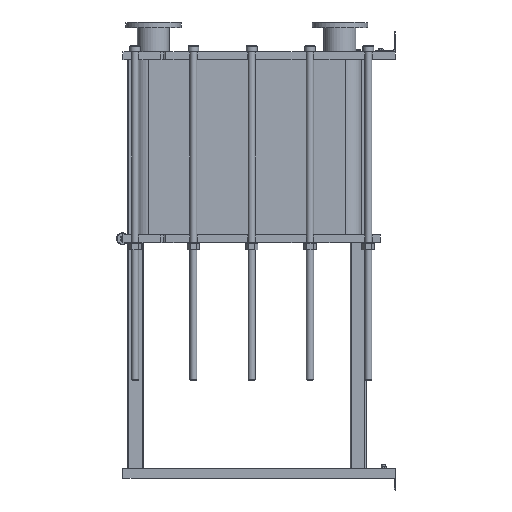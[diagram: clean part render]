
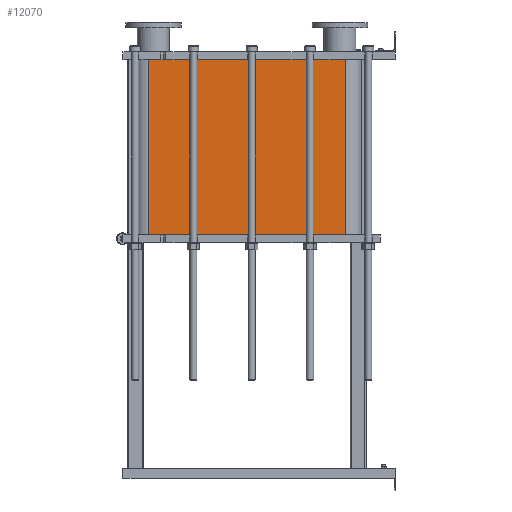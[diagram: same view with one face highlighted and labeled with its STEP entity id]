
A CAD part, left-side view. The second image highlights one B-rep face of the part: STEP entity #12070.
In plain terms, the highlighted planar face has unit normal (-1, 0, 0).
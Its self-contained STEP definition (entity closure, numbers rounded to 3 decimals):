
#1064=LINE('',#21140,#2164);
#1065=LINE('',#21144,#2165);
#1066=LINE('',#21146,#2166);
#1067=LINE('',#21147,#2167);
#2164=VECTOR('',#15790,10.);
#2165=VECTOR('',#15795,10.);
#2166=VECTOR('',#15796,10.);
#2167=VECTOR('',#15797,10.);
#3304=FACE_OUTER_BOUND('',#4091,.T.);
#4091=EDGE_LOOP('',(#9793,#9794,#9795,#9796));
#5677=VERTEX_POINT('',#21137);
#5678=VERTEX_POINT('',#21139);
#5679=VERTEX_POINT('',#21143);
#5680=VERTEX_POINT('',#21145);
#7118=EDGE_CURVE('',#5678,#5677,#1064,.T.);
#7120=EDGE_CURVE('',#5677,#5679,#1065,.T.);
#7121=EDGE_CURVE('',#5680,#5679,#1066,.T.);
#7122=EDGE_CURVE('',#5680,#5678,#1067,.T.);
#9793=ORIENTED_EDGE('',*,*,#7120,.T.);
#9794=ORIENTED_EDGE('',*,*,#7121,.F.);
#9795=ORIENTED_EDGE('',*,*,#7122,.T.);
#9796=ORIENTED_EDGE('',*,*,#7118,.T.);
#11441=PLANE('',#13191);
#12070=ADVANCED_FACE('',(#3304),#11441,.T.);
#13191=AXIS2_PLACEMENT_3D('',#21142,#15793,#15794);
#15790=DIRECTION('',(0.,0.,-1.));
#15793=DIRECTION('center_axis',(-1.,0.,0.));
#15794=DIRECTION('ref_axis',(0.,1.,0.));
#15795=DIRECTION('',(0.,-1.,0.));
#15796=DIRECTION('',(0.,0.,-1.));
#15797=DIRECTION('',(0.,1.,0.));
#21137=CARTESIAN_POINT('',(-248.152,1243.818,-883.2));
#21139=CARTESIAN_POINT('',(-248.152,1243.818,0.));
#21140=CARTESIAN_POINT('',(-248.152,1243.818,0.));
#21142=CARTESIAN_POINT('Origin',(-248.152,251.818,0.));
#21143=CARTESIAN_POINT('',(-248.152,251.818,-883.2));
#21144=CARTESIAN_POINT('',(-248.152,499.818,-883.2));
#21145=CARTESIAN_POINT('',(-248.152,251.818,0.));
#21146=CARTESIAN_POINT('',(-248.152,251.818,0.));
#21147=CARTESIAN_POINT('',(-248.152,251.818,0.));
